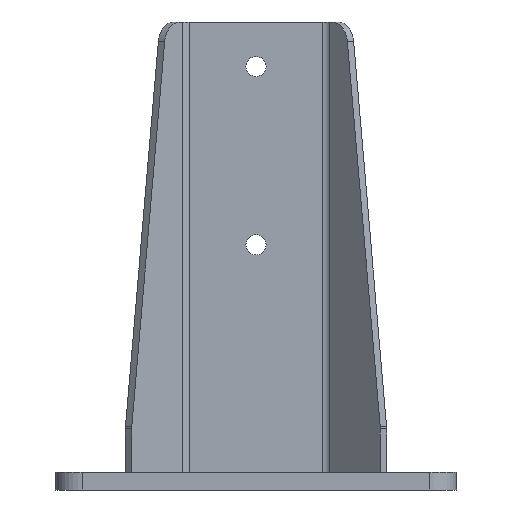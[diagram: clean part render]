
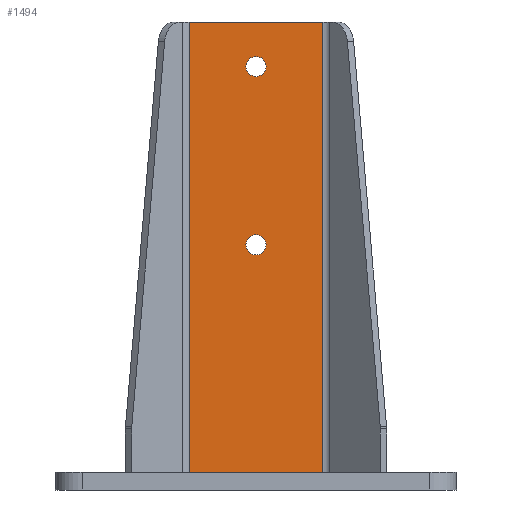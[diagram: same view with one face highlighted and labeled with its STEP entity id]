
A CAD part, front view. The second image highlights one B-rep face of the part: STEP entity #1494.
In plain terms, the highlighted planar face has unit normal (0, -1, 0) as drawn and (0, 0, 1) by its records, which use the part's own axes.
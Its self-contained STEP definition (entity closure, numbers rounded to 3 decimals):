
#51=FACE_BOUND('',#275,.T.);
#52=FACE_BOUND('',#276,.T.);
#102=PLANE('',#1665);
#178=FACE_OUTER_BOUND('',#274,.T.);
#274=EDGE_LOOP('',(#1348,#1349,#1350,#1351,#1352,#1353,#1354,#1355));
#275=EDGE_LOOP('',(#1356,#1357));
#276=EDGE_LOOP('',(#1358,#1359));
#401=LINE('',#2389,#565);
#402=LINE('',#2392,#566);
#405=LINE('',#2398,#569);
#433=LINE('',#2471,#597);
#437=LINE('',#2478,#601);
#438=LINE('',#2481,#602);
#439=LINE('',#2482,#603);
#440=LINE('',#2483,#604);
#565=VECTOR('',#1961,10.);
#566=VECTOR('',#1964,10.);
#569=VECTOR('',#1969,10.);
#597=VECTOR('',#2041,10.);
#601=VECTOR('',#2047,10.);
#602=VECTOR('',#2050,10.);
#603=VECTOR('',#2051,10.);
#604=VECTOR('',#2052,10.);
#637=CIRCLE('',#1617,4.5);
#638=CIRCLE('',#1618,4.5);
#640=CIRCLE('',#1621,4.5);
#641=CIRCLE('',#1622,4.5);
#735=VERTEX_POINT('',#2321);
#736=VERTEX_POINT('',#2322);
#738=VERTEX_POINT('',#2329);
#739=VERTEX_POINT('',#2330);
#755=VERTEX_POINT('',#2372);
#759=VERTEX_POINT('',#2382);
#760=VERTEX_POINT('',#2391);
#762=VERTEX_POINT('',#2397);
#782=VERTEX_POINT('',#2457);
#784=VERTEX_POINT('',#2463);
#787=VERTEX_POINT('',#2476);
#788=VERTEX_POINT('',#2480);
#905=EDGE_CURVE('',#735,#736,#637,.T.);
#906=EDGE_CURVE('',#736,#735,#638,.T.);
#909=EDGE_CURVE('',#738,#739,#640,.T.);
#910=EDGE_CURVE('',#739,#738,#641,.T.);
#939=EDGE_CURVE('',#755,#759,#401,.T.);
#940=EDGE_CURVE('',#760,#759,#402,.T.);
#943=EDGE_CURVE('',#762,#760,#405,.T.);
#979=EDGE_CURVE('',#782,#784,#433,.T.);
#983=EDGE_CURVE('',#787,#784,#437,.T.);
#984=EDGE_CURVE('',#788,#787,#438,.T.);
#985=EDGE_CURVE('',#762,#788,#439,.T.);
#986=EDGE_CURVE('',#755,#782,#440,.T.);
#1348=ORIENTED_EDGE('',*,*,#979,.T.);
#1349=ORIENTED_EDGE('',*,*,#983,.F.);
#1350=ORIENTED_EDGE('',*,*,#984,.F.);
#1351=ORIENTED_EDGE('',*,*,#985,.F.);
#1352=ORIENTED_EDGE('',*,*,#943,.T.);
#1353=ORIENTED_EDGE('',*,*,#940,.T.);
#1354=ORIENTED_EDGE('',*,*,#939,.F.);
#1355=ORIENTED_EDGE('',*,*,#986,.T.);
#1356=ORIENTED_EDGE('',*,*,#905,.T.);
#1357=ORIENTED_EDGE('',*,*,#906,.T.);
#1358=ORIENTED_EDGE('',*,*,#909,.T.);
#1359=ORIENTED_EDGE('',*,*,#910,.T.);
#1494=ADVANCED_FACE('',(#178,#51,#52),#102,.T.);
#1617=AXIS2_PLACEMENT_3D('',#2323,#1895,#1896);
#1618=AXIS2_PLACEMENT_3D('',#2324,#1897,#1898);
#1621=AXIS2_PLACEMENT_3D('',#2331,#1904,#1905);
#1622=AXIS2_PLACEMENT_3D('',#2332,#1906,#1907);
#1665=AXIS2_PLACEMENT_3D('',#2479,#2048,#2049);
#1895=DIRECTION('center_axis',(0.,0.,-1.));
#1896=DIRECTION('ref_axis',(1.,0.,0.));
#1897=DIRECTION('center_axis',(0.,0.,-1.));
#1898=DIRECTION('ref_axis',(1.,0.,0.));
#1904=DIRECTION('center_axis',(0.,0.,-1.));
#1905=DIRECTION('ref_axis',(1.,0.,0.));
#1906=DIRECTION('center_axis',(0.,0.,-1.));
#1907=DIRECTION('ref_axis',(1.,0.,0.));
#1961=DIRECTION('',(0.,-1.,0.));
#1964=DIRECTION('',(1.,0.,0.));
#1969=DIRECTION('',(0.,1.,0.));
#2041=DIRECTION('',(0.,-1.,0.));
#2047=DIRECTION('',(-1.,0.,0.));
#2048=DIRECTION('center_axis',(0.,0.,1.));
#2049=DIRECTION('ref_axis',(1.,0.,0.));
#2050=DIRECTION('',(0.,1.,0.));
#2051=DIRECTION('',(-1.,0.,0.));
#2052=DIRECTION('',(-1.,0.,0.));
#2321=CARTESIAN_POINT('',(39.5,102.,4.));
#2322=CARTESIAN_POINT('',(30.5,102.,4.));
#2323=CARTESIAN_POINT('Origin',(35.,102.,4.));
#2324=CARTESIAN_POINT('Origin',(35.,102.,4.));
#2329=CARTESIAN_POINT('',(39.5,182.,4.));
#2330=CARTESIAN_POINT('',(30.5,182.,4.));
#2331=CARTESIAN_POINT('Origin',(35.,182.,4.));
#2332=CARTESIAN_POINT('Origin',(35.,182.,4.));
#2372=CARTESIAN_POINT('',(65.,202.,4.));
#2382=CARTESIAN_POINT('',(65.,0.,4.));
#2389=CARTESIAN_POINT('',(65.,-1.75,4.));
#2391=CARTESIAN_POINT('',(45.,0.,4.));
#2392=CARTESIAN_POINT('',(102.,0.,4.));
#2397=CARTESIAN_POINT('',(45.,-7.,4.));
#2398=CARTESIAN_POINT('',(45.,0.,4.));
#2457=CARTESIAN_POINT('',(5.,202.,4.));
#2463=CARTESIAN_POINT('',(5.,0.,4.));
#2471=CARTESIAN_POINT('',(5.,-1.75,4.));
#2476=CARTESIAN_POINT('',(25.,0.,4.));
#2478=CARTESIAN_POINT('',(-32.,0.,4.));
#2479=CARTESIAN_POINT('Origin',(30.,-3.5,4.));
#2480=CARTESIAN_POINT('',(25.,-7.,4.));
#2481=CARTESIAN_POINT('',(25.,0.,4.));
#2482=CARTESIAN_POINT('',(25.,-7.,4.));
#2483=CARTESIAN_POINT('',(35.,202.,4.));
